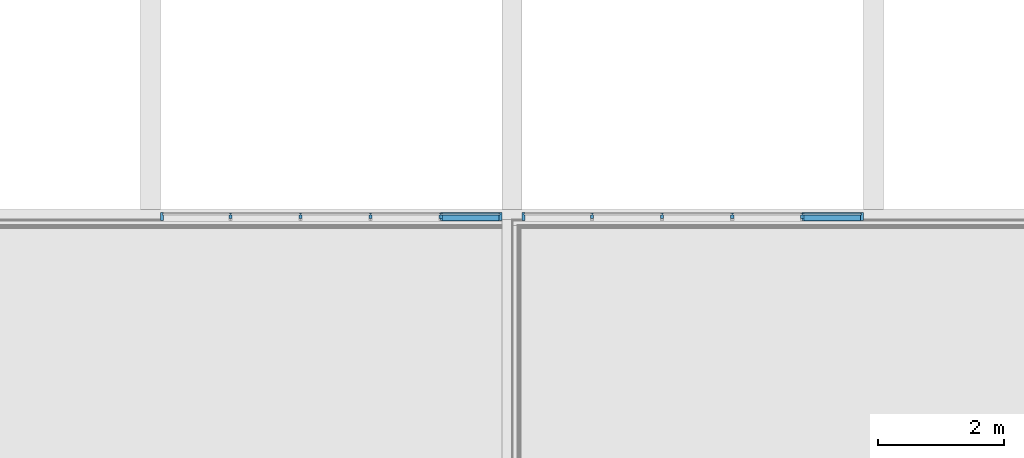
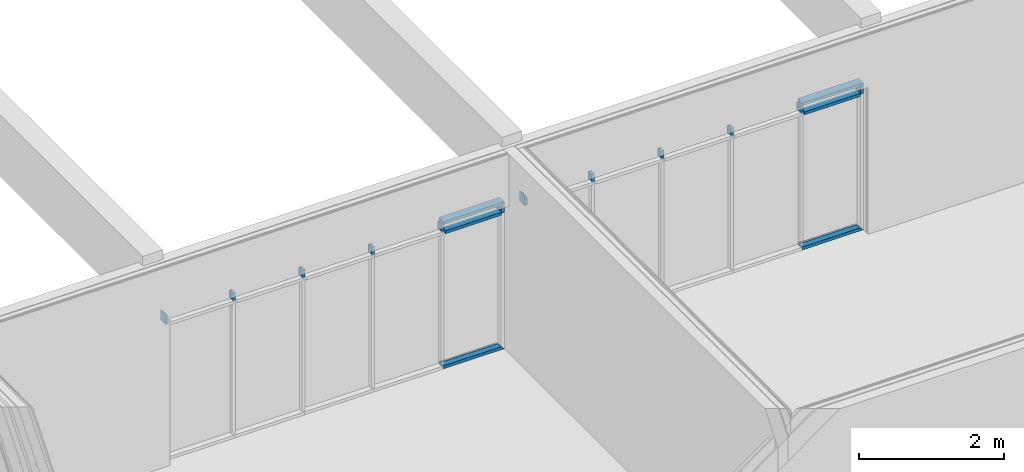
# One storey, part 16 of 139: 18 members, 2 elements without a shape of their own.
"""IFC2X3 building model written with IfcOpenShell, lengths in millimetres."""

import ifcopenshell
import ifcopenshell.guid

model = None  # the IFC model being written
_history = None  # IfcOwnerHistory: only IFC2X3 demands one
_inside = {}  # id of a spatial element -> (the spatial element, [elements in it])
_under = {}  # id of a project, library or spatial element -> (it, [spatial elements below it])
_declared = {}  # id of a project -> (the project, [libraries it declares])
_typed = {}  # id of a type object -> (the type object, [elements of that type])
_made_of = {}  # id of a material, layer set ... -> (it, [elements and type objects made of it])


def new_model(schema):
    """Start an empty IFC model of exactly this schema.

    Asked for "IFC4X3", IfcOpenShell would pick the latest addendum, in which some entities
    have other attributes; the version numbers below select the first issue.
    IFC2X3 requires an IfcOwnerHistory on every rooted entity: one is made here for all.
    """
    global model, _history
    if schema == "IFC4X3":
        model = ifcopenshell.file(schema_version=(4, 3, 0, 0))
    else:
        model = ifcopenshell.file(schema=schema)
    _inside.clear()
    _under.clear()
    _declared.clear()
    _typed.clear()
    _made_of.clear()
    _history = None
    if model.schema == "IFC2X3":
        org = make("IfcOrganization", Name="unknown")
        user = make(
            "IfcPersonAndOrganization",
            ThePerson=make("IfcPerson", FamilyName="unknown"),
            TheOrganization=org,
        )
        app = make(
            "IfcApplication",
            ApplicationDeveloper=org,
            Version="unknown",
            ApplicationFullName="unknown",
            ApplicationIdentifier="unknown",
        )
        _history = make(
            "IfcOwnerHistory",
            OwningUser=user,
            OwningApplication=app,
            ChangeAction="ADDED",
            CreationDate=0,
        )
    return model


def make(cls, **values):
    """One entity of the class cls with the attributes given. An attribute that is None is left unset."""
    return model.create_entity(
        cls, **{name: value for name, value in values.items() if value is not None}
    )


def entity(cls, *values):
    """Any entity or typed value of the class cls, its attributes in the order of the schema. None: left unset."""
    e = model.create_entity(cls)
    for i, value in enumerate(values):
        if value is not None:
            e[i] = value
    return e


def rooted(cls, **values):
    """An entity with a GlobalId (a new one), such as an element, a storey or a relation."""
    return make(cls, GlobalId=ifcopenshell.guid.new(), OwnerHistory=_history, **values)


def si_unit(unit_type, name, prefix=None):
    """IfcSIUnit, for example si_unit("LENGTHUNIT", "METRE", prefix="MILLI")."""
    return make("IfcSIUnit", UnitType=unit_type, Prefix=prefix, Name=name)


def converted_unit(unit_type, name, factor, base, dimensions=None, offset=None):
    """IfcConversionBasedUnit, such as the inch: factor (a typed value) times the base unit."""
    return make(
        "IfcConversionBasedUnit"
        if offset is None
        else "IfcConversionBasedUnitWithOffset",
        ConversionOffset=offset,
        Dimensions=None
        if dimensions is None
        else entity("IfcDimensionalExponents", *dimensions),
        UnitType=unit_type,
        Name=name,
        ConversionFactor=make(
            "IfcMeasureWithUnit", ValueComponent=factor, UnitComponent=base
        ),
    )


def derived_unit(unit_type, elements):
    """IfcDerivedUnit: a product of units, each with its exponent."""
    return make(
        "IfcDerivedUnit",
        Elements=[
            make("IfcDerivedUnitElement", Unit=unit, Exponent=power)
            for unit, power in elements
        ],
        UnitType=unit_type,
    )


def money_unit(currency):
    """IfcMonetaryUnit."""
    return make("IfcMonetaryUnit", Currency=currency)


def assignment(units):
    """IfcUnitAssignment: the units of a project."""
    return None if units is None else make("IfcUnitAssignment", Units=units)


def point(xyz):
    """IfcCartesianPoint."""
    return None if xyz is None else make("IfcCartesianPoint", Coordinates=xyz)


def direction(xyz):
    """IfcDirection."""
    return None if xyz is None else make("IfcDirection", DirectionRatios=xyz)


def frame(location, z_axis=None, x_axis=None):
    """IfcAxis2Placement3D, a coordinate frame: its origin and axes. An axis left out is left unset."""
    return make(
        "IfcAxis2Placement3D",
        Location=point(location),
        Axis=direction(z_axis),
        RefDirection=direction(x_axis),
    )


def origin_with_axes():
    """The frame at (0, 0, 0) with the z axis (0, 0, 1) and the x axis (1, 0, 0) written out."""
    return frame((0.0, 0.0, 0.0), z_axis=(0.0, 0.0, 1.0), x_axis=(1.0, 0.0, 0.0))


def place(relative_to, where):
    """IfcLocalPlacement: puts the frame where relative to a parent placement (None: the world)."""
    return make(
        "IfcLocalPlacement", PlacementRelTo=relative_to, RelativePlacement=where
    )


def context(
    kind, dimensions, precision=None, world=None, true_north=None, identifier=None
):
    """IfcGeometricRepresentationContext, for example the 3D "Model" context."""
    return make(
        "IfcGeometricRepresentationContext",
        ContextIdentifier=identifier,
        ContextType=kind,
        CoordinateSpaceDimension=dimensions,
        Precision=precision,
        WorldCoordinateSystem=world,
        TrueNorth=true_north,
    )


def subcontext(parent, identifier, kind, view, scale=None):
    """IfcGeometricRepresentationSubContext, for example "Body" below "Model"."""
    return make(
        "IfcGeometricRepresentationSubContext",
        ContextIdentifier=identifier,
        ContextType=kind,
        ParentContext=parent,
        TargetScale=scale,
        TargetView=view,
    )


def project(units=None, contexts=None):
    """IfcProject with its units and contexts."""
    return rooted(
        "IfcProject",
        Name="project",
        RepresentationContexts=contexts,
        UnitsInContext=assignment(units),
    )


def spatial(cls, under=None, at=None, **own):
    """A site, building, storey or space (cls), placed at a placement, below another one or the project."""
    s = rooted(cls, ObjectPlacement=at, **own)
    if under is not None:
        _under.setdefault(under.id(), (under, []))[1].append(s)
    return s


def faces_of(points, faces, orient=None, outer=None):
    """IfcFace entities. A face is a list of loops; a loop is a list of indices into points, from 0.

    orient and outer hold one flag for each loop. By default every Orientation is true, the
    first loop of a face is its IfcFaceOuterBound and the others are IfcFaceBound.
    """
    made = []
    for i, loops in enumerate(faces):
        bounds = []
        for j, loop in enumerate(loops):
            is_outer = j == 0 if outer is None else outer[i][j]
            bounds.append(
                make(
                    "IfcFaceOuterBound" if is_outer else "IfcFaceBound",
                    Bound=make("IfcPolyLoop", Polygon=[points[k] for k in loop]),
                    Orientation=True if orient is None else orient[i][j],
                )
            )
        made.append(make("IfcFace", Bounds=bounds))
    return made


def faceted_brep(points, faces, orient=None, outer=None, voids=None):
    """IfcFacetedBrep: a solid bounded by flat faces; with voids (closed shells), ...WithVoids."""
    shared = [point(p) for p in points]
    hull = make("IfcClosedShell", CfsFaces=faces_of(shared, faces, orient, outer))
    if voids is None:
        return make("IfcFacetedBrep", Outer=hull)
    return make(
        "IfcFacetedBrepWithVoids",
        Outer=hull,
        Voids=[
            make(cls, CfsFaces=faces_of(shared, fs, o, b)) for cls, fs, o, b in voids
        ],
    )


def shape(context_of_items, identifier, shape_type, items):
    """IfcShapeRepresentation: the items that make up one representation, for example the "Body"."""
    return make(
        "IfcShapeRepresentation",
        ContextOfItems=context_of_items,
        RepresentationIdentifier=identifier,
        RepresentationType=shape_type,
        Items=items,
    )


def source(mapping_origin, context_of_items, identifier, shape_type, items):
    """IfcRepresentationMap: a shape defined once, which mapped items show again and again."""
    return make(
        "IfcRepresentationMap",
        MappingOrigin=mapping_origin,
        MappedRepresentation=shape(context_of_items, identifier, shape_type, items),
    )


def transform(
    local_origin,
    x_axis=None,
    y_axis=None,
    z_axis=None,
    scale=None,
    scale2=None,
    scale3=None,
    uniform=True,
):
    """IfcCartesianTransformationOperator3D, or its non-uniform kind. x_axis, y_axis, z_axis: its Axis1, 2, 3."""
    if uniform:
        return make(
            "IfcCartesianTransformationOperator3D",
            Axis1=direction(x_axis),
            Axis2=direction(y_axis),
            LocalOrigin=point(local_origin),
            Scale=scale,
            Axis3=direction(z_axis),
        )
    return make(
        "IfcCartesianTransformationOperator3DnonUniform",
        Axis1=direction(x_axis),
        Axis2=direction(y_axis),
        LocalOrigin=point(local_origin),
        Scale=scale,
        Axis3=direction(z_axis),
        Scale2=scale2,
        Scale3=scale3,
    )


def mapped(mapping_source, mapping_target):
    """IfcMappedItem: shows the shape of a source again, moved by a transform."""
    return make(
        "IfcMappedItem", MappingSource=mapping_source, MappingTarget=mapping_target
    )


def material(Name=None, Category=None):
    """IfcMaterial."""
    return make("IfcMaterial", Name=Name, Category=Category)


def made_of(thing, what):
    """Note that an element or type object is made of a material, layer set ...; save() writes the relation."""
    if what is not None:
        _made_of.setdefault(what.id(), (what, []))[1].append(thing)
    return thing


def type_object(cls, material=None, **own):
    """A type object (cls), such as IfcWallType, which elements share."""
    return made_of(rooted(cls, **own), material)


def element(
    cls,
    number,
    at=None,
    inside=None,
    cuts=None,
    type_object=None,
    material=None,
    context=None,
    identifier="Body",
    shape_type=None,
    held_by="IfcProductDefinitionShape",
    body=None,
    shapes=None,
    **own,
):
    """One element of the class cls, such as IfcWall. Its Tag is "e" and its number.

    at: its placement. inside: the storey or other place that contains it. cuts: it is an
    opening in that element (IfcRelVoidsElement). A single representation is given by context,
    identifier, shape_type and body (its items); several are given by shapes. held_by: the class
    of the entity that holds the representations. save() writes the other relations.
    """
    e = rooted(cls, Tag="e%d" % number, ObjectPlacement=at, **own)
    if body is not None:
        shapes = [shape(context, identifier, shape_type, body)]
    if shapes is not None:
        e.Representation = make(held_by, Representations=shapes)
    if inside is not None:
        _inside.setdefault(inside.id(), (inside, []))[1].append(e)
    if cuts is not None:
        rooted(
            "IfcRelVoidsElement", RelatingBuildingElement=cuts, RelatedOpeningElement=e
        )
    if type_object is not None:
        _typed.setdefault(type_object.id(), (type_object, []))[1].append(e)
    return made_of(e, material)


def aggregate(whole, parts):
    """IfcRelAggregates: a whole, such as a stair, and the parts it consists of."""
    return rooted("IfcRelAggregates", RelatingObject=whole, RelatedObjects=parts)


def save(model, path):
    """Write the relations noted so far, then the file.

    IfcRelAggregates (storeys below a building ...), IfcRelContainedInSpatialStructure (elements
    in a storey), IfcRelDefinesByType, IfcRelAssociatesMaterial and IfcRelDeclares: one each for
    every whole, place, type object, material and project.
    """
    for whole, parts in _under.values():
        aggregate(whole, parts)
    for where, things in _inside.values():
        rooted(
            "IfcRelContainedInSpatialStructure",
            RelatedElements=things,
            RelatingStructure=where,
        )
    for kind, things in _typed.values():
        rooted("IfcRelDefinesByType", RelatedObjects=things, RelatingType=kind)
    for what, things in _made_of.values():
        rooted("IfcRelAssociatesMaterial", RelatedObjects=things, RelatingMaterial=what)
    for by, libraries in _declared.values():
        rooted("IfcRelDeclares", RelatingContext=by, RelatedDefinitions=libraries)
    model.write(path)


model = new_model("IFC2X3")

# Units and contexts
model_context = context("Model", 3, precision=0.01, world=origin_with_axes(), true_north=direction((0.0, 1.0)))
body_context = subcontext(model_context, "Body", "Model", "MODEL_VIEW")
ifc_project = project(units=[si_unit("LENGTHUNIT", "METRE", prefix="MILLI"), si_unit("AREAUNIT", "SQUARE_METRE"), si_unit("VOLUMEUNIT", "CUBIC_METRE"), converted_unit("PLANEANGLEUNIT", "DEGREE", entity("IfcPlaneAngleMeasure", 0.0174532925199), si_unit("PLANEANGLEUNIT", "RADIAN"), dimensions=[0, 0, 0, 0, 0, 0, 0]), money_unit("EUR"), converted_unit("TIMEUNIT", "Year", entity("IfcTimeMeasure", 31556926.0), si_unit("TIMEUNIT", "SECOND"), dimensions=[0, 0, 1, 0, 0, 0, 0]), si_unit("MASSUNIT", "GRAM", prefix="KILO"), si_unit("THERMODYNAMICTEMPERATUREUNIT", "DEGREE_CELSIUS"), si_unit("LUMINOUSINTENSITYUNIT", "LUMEN"), si_unit("ENERGYUNIT", "JOULE", prefix="MEGA"), derived_unit("THERMALCONDUCTANCEUNIT", [(si_unit("POWERUNIT", "WATT"), 1), (si_unit("LENGTHUNIT", "METRE"), -1), (si_unit("THERMODYNAMICTEMPERATUREUNIT", "KELVIN"), -1)]), derived_unit("SPECIFICHEATCAPACITYUNIT", [(si_unit("ENERGYUNIT", "JOULE"), 1), (si_unit("MASSUNIT", "GRAM", prefix="KILO"), -1), (si_unit("THERMODYNAMICTEMPERATUREUNIT", "KELVIN"), -1)]), derived_unit("MASSDENSITYUNIT", [(si_unit("MASSUNIT", "GRAM", prefix="KILO"), 1), (si_unit("VOLUMEUNIT", "CUBIC_METRE"), -1)])], contexts=[model_context])

# Site, building, storey
site_placement = place(None, origin_with_axes())
site = spatial("IfcSite", under=ifc_project, at=site_placement, Name="Kolde pst 67a", CompositionType="ELEMENT")
building_placement = place(site_placement, origin_with_axes())
building = spatial("IfcBuilding", under=site, at=building_placement, Name="Riigigümnaasium", CompositionType="ELEMENT")
storey_placement = place(building_placement, frame((0.0, 0.0, 4600.0), z_axis=(0.0, 0.0, 1.0), x_axis=(1.0, 0.0, 0.0)))
storey = spatial("IfcBuildingStorey", under=building, at=storey_placement, Name="2. korrus", CompositionType="ELEMENT", Elevation=4600.0)

# Curtain wall, member
curtain_wall_type = type_object("IfcCurtainWallType", Name="Curtain Wall Type", PredefinedType="NOTDEFINED")
curtain_wall_1_placement = place(storey_placement, frame((16075.0009233, 67175.1339524, -0.000749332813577), z_axis=(0.0, 0.0, 1.0), x_axis=(1.0, 0.0, 0.0)))
curtain_wall_1 = element("IfcCurtainWall", 1, at=curtain_wall_1_placement, inside=storey, type_object=curtain_wall_type, Name="KLAASSEIN")
ifc_material_1 = material(Name="_GENEERILINE MATERJAL")
member_type_1 = type_object("IfcMemberType", Name="Transom Frame 50 x 100", PredefinedType="MEMBER")
shared_shape_1 = source(origin_with_axes(), body_context, "Body", "Brep", [
    faceted_brep([(-25.0, -10.0, 25.0), (-25.0, -110.0, 25.0), (-25.0, -110.0, 919.999966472), (-25.0, -10.0, 919.999966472), (25.0, -10.0, 25.0), (25.0, -110.0, 25.0), (25.0, -110.0, 919.999966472), (25.0, -10.0, 919.999966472)], [[[0, 1, 2, 3]], [[1, 0, 4, 5]], [[1, 5, 6, 2]], [[2, 6, 7, 3]], [[4, 0, 3, 7]], [[5, 4, 7, 6]]]),
])
member_1_placement = place(curtain_wall_1_placement, frame((3884.99999998, -0.0117178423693, 2300.0), z_axis=(0.999999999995, -3.0161756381e-06, 0.0), x_axis=(0.0, 0.0, 1.0)))
member_1 = element("IfcMember", 2, at=member_1_placement, type_object=member_type_1, material=ifc_material_1, Name="RF RAAM HOR-385", ObjectType="MEMBER", context=body_context, shape_type="MappedRepresentation", body=[
    mapped(shared_shape_1, transform((0.0, 0.0, 0.0), x_axis=(-1.0, 0.0, 0.0), y_axis=(0.0, -1.0, 0.0), z_axis=(0.0, 0.0, 1.0))),
])

curtain_wall_2_placement = place(storey_placement, frame((10344.9992917, 67175.1512351, -0.000749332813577), z_axis=(0.0, 0.0, 1.0), x_axis=(1.0, 0.0, 0.0)))
curtain_wall_2 = element("IfcCurtainWall", 3, at=curtain_wall_2_placement, inside=storey, type_object=curtain_wall_type, Name="KLAASSEIN")
member_2_placement = place(curtain_wall_2_placement, frame((3884.99999998, -0.0117178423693, 2300.0), z_axis=(0.999999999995, -3.0161756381e-06, 0.0), x_axis=(0.0, 0.0, 1.0)))
member_2 = element("IfcMember", 4, at=member_2_placement, type_object=member_type_1, material=ifc_material_1, Name="RF RAAM HOR-385", ObjectType="MEMBER", context=body_context, shape_type="MappedRepresentation", body=[
    mapped(shared_shape_1, transform((0.0, 0.0, 0.0), x_axis=(-1.0, 0.0, 0.0), y_axis=(0.0, -1.0, 0.0), z_axis=(0.0, 0.0, 1.0))),
])

# Member
ifc_material_2 = material(Name="_METALL - alumiinium")
member_type_2 = type_object("IfcMemberType", Name="Boundary Frame 50 x 130", PredefinedType="MEMBER")
shared_shape_2 = source(origin_with_axes(), body_context, "Body", "Brep", [
    faceted_brep([(-30.0, -10.0, 939.999966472), (-50.0, -10.0, 919.999966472), (-50.0, -100.0, 919.999966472), (0.0, -100.0, 969.999966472), (0.0, 30.0, 969.999966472), (-50.0, 30.0, 919.999966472), (-50.0, 10.0, 919.999966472), (-30.0, 10.0, 939.999966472), (-30.0, -10.0, 0.0), (-50.0, -10.0, 0.0), (-50.0, -100.0, 0.0), (0.0, -100.0, 0.0), (0.0, 30.0, 0.0), (-50.0, 30.0, 0.0), (-50.0, 10.0, 0.0), (-30.0, 10.0, 0.0)], [[[0, 1, 2, 3, 4, 5, 6, 7]], [[0, 8, 9, 1]], [[9, 10, 2, 1]], [[10, 11, 3, 2]], [[11, 12, 4, 3]], [[12, 13, 5, 4]], [[6, 5, 13, 14]], [[14, 15, 7, 6]], [[7, 15, 8, 0]], [[8, 15, 14, 13, 12, 11, 10, 9]]]),
])
member_3_placement = place(curtain_wall_1_placement, frame((3884.99999998, -0.0117178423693, 0.0), z_axis=(0.999999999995, -3.0161756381e-06, 0.0), x_axis=(0.0, 0.0, 1.0)))
member_3 = element("IfcMember", 5, at=member_3_placement, type_object=member_type_2, material=ifc_material_2, Name="RF RAAM SERV-072", ObjectType="MEMBER", context=body_context, shape_type="MappedRepresentation", body=[
    mapped(shared_shape_2, transform((0.0, 0.0, 0.0), x_axis=(-1.0, 0.0, 0.0), y_axis=(0.0, -1.0, 0.0), z_axis=(0.0, 0.0, 1.0))),
])

member_4_placement = place(curtain_wall_2_placement, frame((3884.99999998, -0.0117178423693, 0.0), z_axis=(0.999999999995, -3.0161756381e-06, 0.0), x_axis=(0.0, 0.0, 1.0)))
member_4 = element("IfcMember", 6, at=member_4_placement, type_object=member_type_2, material=ifc_material_2, Name="RF RAAM SERV-072", ObjectType="MEMBER", context=body_context, shape_type="MappedRepresentation", body=[
    mapped(shared_shape_2, transform((0.0, 0.0, 0.0), x_axis=(-1.0, 0.0, 0.0), y_axis=(0.0, -1.0, 0.0), z_axis=(0.0, 0.0, 1.0))),
])

shared_shape_3 = source(origin_with_axes(), body_context, "Body", "Brep", [
    faceted_brep([(30.0, -10.0, 150.000018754), (30.0, 10.0, 150.000018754), (50.0, 10.0, 130.000018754), (50.0, 30.0, 130.000018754), (0.0, 30.0, 180.000018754), (0.0, -100.0, 180.000018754), (50.0, -100.0, 130.000018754), (50.0, -10.0, 130.000018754), (30.0, -10.0, 0.0), (30.0, 10.0, 0.0), (50.0, 10.0, 0.0), (50.0, 30.0, 0.0), (0.0, 30.0, 0.0), (0.0, -100.0, 0.0), (50.0, -100.0, 0.0), (50.0, -10.0, 0.0)], [[[0, 1, 2, 3, 4, 5, 6, 7]], [[1, 0, 8, 9]], [[10, 2, 1, 9]], [[2, 10, 11, 3]], [[12, 4, 3, 11]], [[13, 5, 4, 12]], [[14, 6, 5, 13]], [[15, 7, 6, 14]], [[0, 7, 15, 8]], [[8, 15, 14, 13, 12, 11, 10, 9]]]),
])
member_5_placement = place(curtain_wall_1_placement, frame((-554.999999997, 0.0016739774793, 2300.0), z_axis=(0.0, 0.0, 1.0), x_axis=(-0.999999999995, 3.01617563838e-06, 0.0)))
member_5 = element("IfcMember", 7, at=member_5_placement, type_object=member_type_2, material=ifc_material_2, Name="RF RAAM SERV-080", ObjectType="MEMBER", context=body_context, shape_type="MappedRepresentation", body=[
    mapped(shared_shape_3, transform((0.0, 0.0, 0.0), x_axis=(-1.0, 0.0, 0.0), y_axis=(0.0, -1.0, 0.0), z_axis=(0.0, 0.0, 1.0))),
])

member_6_placement = place(curtain_wall_2_placement, frame((-554.999999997, 0.0016739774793, 2300.0), z_axis=(0.0, 0.0, 1.0), x_axis=(-0.999999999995, 3.01617563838e-06, 0.0)))
member_6 = element("IfcMember", 8, at=member_6_placement, type_object=member_type_2, material=ifc_material_2, Name="RF RAAM SERV-080", ObjectType="MEMBER", context=body_context, shape_type="MappedRepresentation", body=[
    mapped(shared_shape_3, transform((0.0, 0.0, 0.0), x_axis=(-1.0, 0.0, 0.0), y_axis=(0.0, -1.0, 0.0), z_axis=(0.0, 0.0, 1.0))),
])

member_type_3 = type_object("IfcMemberType", Name="Mullion Frame 50 x 90", PredefinedType="MEMBER")
shared_shape_4 = source(origin_with_axes(), body_context, "Body", "Brep", [
    faceted_brep([(5.0, -10.0, 130.000018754), (5.0, 10.0, 130.000018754), (25.0, 10.0, 130.000018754), (25.0, 20.0, 130.000018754), (-25.0, 20.0, 130.000018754), (-25.0, 10.0, 130.000018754), (-5.0, 10.0, 130.000018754), (-5.0, -10.0, 130.000018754), (-25.0, -10.0, 130.000018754), (-25.0, -70.0, 130.000018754), (25.0, -70.0, 130.000018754), (25.0, -10.0, 130.000018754), (5.0, -10.0, 0.0), (5.0, 10.0, 0.0), (25.0, 10.0, 0.0), (25.0, 20.0, 0.0), (-25.0, 20.0, 0.0), (-25.0, 10.0, 0.0), (-5.0, 10.0, 0.0), (-5.0, -10.0, 0.0), (-25.0, -10.0, 0.0), (-25.0, -70.0, 0.0), (25.0, -70.0, 0.0), (25.0, -10.0, 0.0)], [[[0, 1, 2, 3, 4, 5, 6, 7, 8, 9, 10, 11]], [[0, 12, 13, 1]], [[1, 13, 14, 2]], [[14, 15, 3, 2]], [[3, 15, 16, 4]], [[17, 5, 4, 16]], [[5, 17, 18, 6]], [[7, 6, 18, 19]], [[8, 7, 19, 20]], [[8, 20, 21, 9]], [[9, 21, 22, 10]], [[11, 10, 22, 23]], [[11, 23, 12, 0]], [[13, 12, 23, 22, 21, 20, 19, 18, 17, 16, 15, 14]]]),
])
member_7_placement = place(curtain_wall_1_placement, frame((554.999999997, -0.0016739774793, 2300.0), z_axis=(0.0, 0.0, 1.0), x_axis=(-0.999999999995, 3.01617563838e-06, 0.0)))
member_7 = element("IfcMember", 9, at=member_7_placement, type_object=member_type_3, material=ifc_material_2, Name="RF RAAM VERT-333", ObjectType="MEMBER", context=body_context, shape_type="MappedRepresentation", body=[
    mapped(shared_shape_4, transform((0.0, 0.0, 0.0), x_axis=(-1.0, 0.0, 0.0), y_axis=(0.0, -1.0, 0.0), z_axis=(0.0, 0.0, 1.0))),
])

member_8_placement = place(curtain_wall_1_placement, frame((1664.99999999, -0.0050219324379, 2300.0), z_axis=(0.0, 0.0, 1.0), x_axis=(-0.999999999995, 3.01617564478e-06, 0.0)))
member_8 = element("IfcMember", 10, at=member_8_placement, type_object=member_type_3, material=ifc_material_2, Name="RF RAAM VERT-334", ObjectType="MEMBER", context=body_context, shape_type="MappedRepresentation", body=[
    mapped(shared_shape_4, transform((0.0, 0.0, 0.0), x_axis=(-1.0, 0.0, 0.0), y_axis=(0.0, -1.0, 0.0), z_axis=(0.0, 0.0, 1.0))),
])

member_9_placement = place(curtain_wall_1_placement, frame((2774.99999999, -0.00836988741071, 2300.0), z_axis=(0.0, 0.0, 1.0), x_axis=(-0.999999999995, 3.01617564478e-06, 0.0)))
member_9 = element("IfcMember", 11, at=member_9_placement, type_object=member_type_3, material=ifc_material_2, Name="RF RAAM VERT-335", ObjectType="MEMBER", context=body_context, shape_type="MappedRepresentation", body=[
    mapped(shared_shape_4, transform((0.0, 0.0, 0.0), x_axis=(-1.0, 0.0, 0.0), y_axis=(0.0, -1.0, 0.0), z_axis=(0.0, 0.0, 1.0))),
])

member_10_placement = place(curtain_wall_1_placement, frame((3884.99999998, -0.0117178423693, 2300.0), z_axis=(0.0, 0.0, 1.0), x_axis=(-0.999999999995, 3.01617563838e-06, 0.0)))
member_10 = element("IfcMember", 12, at=member_10_placement, type_object=member_type_3, material=ifc_material_2, Name="RF RAAM VERT-336", ObjectType="MEMBER", context=body_context, shape_type="MappedRepresentation", body=[
    mapped(shared_shape_4, transform((0.0, 0.0, 0.0), x_axis=(-1.0, 0.0, 0.0), y_axis=(0.0, -1.0, 0.0), z_axis=(0.0, 0.0, 1.0))),
])

member_11_placement = place(curtain_wall_2_placement, frame((2774.99999999, -0.00836988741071, 2300.0), z_axis=(0.0, 0.0, 1.0), x_axis=(-0.999999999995, 3.01617564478e-06, 0.0)))
member_11 = element("IfcMember", 13, at=member_11_placement, type_object=member_type_3, material=ifc_material_2, Name="RF RAAM VERT-335", ObjectType="MEMBER", context=body_context, shape_type="MappedRepresentation", body=[
    mapped(shared_shape_4, transform((0.0, 0.0, 0.0), x_axis=(-1.0, 0.0, 0.0), y_axis=(0.0, -1.0, 0.0), z_axis=(0.0, 0.0, 1.0))),
])

member_12_placement = place(curtain_wall_2_placement, frame((3884.99999998, -0.0117178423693, 2300.0), z_axis=(0.0, 0.0, 1.0), x_axis=(-0.999999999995, 3.01617563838e-06, 0.0)))
member_12 = element("IfcMember", 14, at=member_12_placement, type_object=member_type_3, material=ifc_material_2, Name="RF RAAM VERT-336", ObjectType="MEMBER", context=body_context, shape_type="MappedRepresentation", body=[
    mapped(shared_shape_4, transform((0.0, 0.0, 0.0), x_axis=(-1.0, 0.0, 0.0), y_axis=(0.0, -1.0, 0.0), z_axis=(0.0, 0.0, 1.0))),
])

member_13_placement = place(curtain_wall_2_placement, frame((554.999999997, -0.0016739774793, 2300.0), z_axis=(0.0, 0.0, 1.0), x_axis=(-0.999999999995, 3.01617563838e-06, 0.0)))
member_13 = element("IfcMember", 15, at=member_13_placement, type_object=member_type_3, material=ifc_material_2, Name="RF RAAM VERT-333", ObjectType="MEMBER", context=body_context, shape_type="MappedRepresentation", body=[
    mapped(shared_shape_4, transform((0.0, 0.0, 0.0), x_axis=(-1.0, 0.0, 0.0), y_axis=(0.0, -1.0, 0.0), z_axis=(0.0, 0.0, 1.0))),
])

member_14_placement = place(curtain_wall_2_placement, frame((1664.99999999, -0.0050219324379, 2300.0), z_axis=(0.0, 0.0, 1.0), x_axis=(-0.999999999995, 3.01617564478e-06, 0.0)))
member_14 = element("IfcMember", 16, at=member_14_placement, type_object=member_type_3, material=ifc_material_2, Name="RF RAAM VERT-334", ObjectType="MEMBER", context=body_context, shape_type="MappedRepresentation", body=[
    mapped(shared_shape_4, transform((0.0, 0.0, 0.0), x_axis=(-1.0, 0.0, 0.0), y_axis=(0.0, -1.0, 0.0), z_axis=(0.0, 0.0, 1.0))),
])

shared_shape_5 = source(origin_with_axes(), body_context, "Body", "Brep", [
    faceted_brep([(-30.0, -10.0, 969.99996668), (-50.0, -10.0, 969.99996668), (-50.0, -100.0, 969.99996668), (0.0, -100.0, 969.99996668), (0.0, 30.0, 969.99996668), (-50.0, 30.0, 969.99996668), (-50.0, 10.0, 969.99996668), (-30.0, 10.0, 969.99996668), (-30.0, -10.0, 30.0000002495), (-50.0, -10.0, 50.0000004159), (-50.0, -100.0, 50.0000004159), (0.0, -100.0, 0.0), (0.0, 30.0, 0.0), (-50.0, 30.0, 50.0000004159), (-50.0, 10.0, 50.0000004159), (-30.0, 10.0, 30.0000002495)], [[[0, 1, 2, 3, 4, 5, 6, 7]], [[0, 8, 9, 1]], [[9, 10, 2, 1]], [[2, 10, 11, 3]], [[3, 11, 12, 4]], [[4, 12, 13, 5]], [[6, 5, 13, 14]], [[14, 15, 7, 6]], [[7, 15, 8, 0]], [[8, 15, 14, 13, 12, 11, 10, 9]]]),
])
member_15_placement = place(curtain_wall_1_placement, frame((4854.99996645, -0.0146435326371, 2480.00002682), z_axis=(-0.999999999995, 3.0161756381e-06, -8.3173649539e-09), x_axis=(8.31736495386e-09, 0.0, -1.0)))
member_15 = element("IfcMember", 17, at=member_15_placement, type_object=member_type_2, material=ifc_material_2, Name="RF RAAM SERV-075", ObjectType="MEMBER", context=body_context, shape_type="MappedRepresentation", body=[
    mapped(shared_shape_5, transform((0.0, 0.0, 0.0), x_axis=(-1.0, 0.0, -8.3173649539e-09), y_axis=(0.0, -1.0, 0.0), z_axis=(-8.3173649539e-09, 0.0, 1.0))),
])

member_16_placement = place(curtain_wall_2_placement, frame((4854.99996645, -0.0146435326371, 2480.00002682), z_axis=(-0.999999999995, 3.0161756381e-06, -8.3173649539e-09), x_axis=(8.31736495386e-09, 0.0, -1.0)))
member_16 = element("IfcMember", 18, at=member_16_placement, type_object=member_type_2, material=ifc_material_2, Name="RF RAAM SERV-075", ObjectType="MEMBER", context=body_context, shape_type="MappedRepresentation", body=[
    mapped(shared_shape_5, transform((0.0, 0.0, 0.0), x_axis=(-1.0, 0.0, -8.3173649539e-09), y_axis=(0.0, -1.0, 0.0), z_axis=(-8.3173649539e-09, 0.0, 1.0))),
])

shared_shape_6 = source(origin_with_axes(), body_context, "Body", "Brep", [
    faceted_brep([(-30.0, -10.0, 150.000026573), (-50.0, -10.0, 130.000026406), (-50.0, -100.0, 130.000026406), (0.0, -100.0, 180.000026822), (0.0, 30.0, 180.000026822), (-50.0, 30.0, 130.000026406), (-50.0, 10.0, 130.000026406), (-30.0, 10.0, 150.000026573), (-30.0, -10.0, 0.0), (-50.0, -10.0, 0.0), (-50.0, -100.0, 0.0), (0.0, -100.0, 0.0), (0.0, 30.0, 0.0), (-50.0, 30.0, 0.0), (-50.0, 10.0, 0.0), (-30.0, 10.0, 0.0)], [[[0, 1, 2, 3, 4, 5, 6, 7]], [[0, 8, 9, 1]], [[9, 10, 2, 1]], [[10, 11, 3, 2]], [[11, 12, 4, 3]], [[12, 13, 5, 4]], [[6, 5, 13, 14]], [[14, 15, 7, 6]], [[7, 15, 8, 0]], [[8, 15, 14, 13, 12, 11, 10, 9]]]),
])
member_17_placement = place(curtain_wall_1_placement, frame((4854.99996645, -0.0146435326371, 2300.0), z_axis=(0.0, 0.0, 1.0), x_axis=(-0.999999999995, 3.01617563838e-06, 0.0)))
member_17 = element("IfcMember", 19, at=member_17_placement, type_object=member_type_2, material=ifc_material_2, Name="RF RAAM SERV-074", ObjectType="MEMBER", context=body_context, shape_type="MappedRepresentation", body=[
    mapped(shared_shape_6, transform((0.0, 0.0, 0.0), x_axis=(-1.0, 0.0, 0.0), y_axis=(0.0, -1.0, 0.0), z_axis=(0.0, 0.0, 1.0))),
])

aggregate(curtain_wall_1, [member_1, member_3, member_5, member_7, member_8, member_9, member_10, member_15, member_17])

member_18_placement = place(curtain_wall_2_placement, frame((4854.99996645, -0.0146435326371, 2300.0), z_axis=(0.0, 0.0, 1.0), x_axis=(-0.999999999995, 3.01617563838e-06, 0.0)))
member_18 = element("IfcMember", 20, at=member_18_placement, type_object=member_type_2, material=ifc_material_2, Name="RF RAAM SERV-074", ObjectType="MEMBER", context=body_context, shape_type="MappedRepresentation", body=[
    mapped(shared_shape_6, transform((0.0, 0.0, 0.0), x_axis=(-1.0, 0.0, 0.0), y_axis=(0.0, -1.0, 0.0), z_axis=(0.0, 0.0, 1.0))),
])

aggregate(curtain_wall_2, [member_2, member_4, member_11, member_12, member_16, member_6, member_13, member_18, member_14])

save(model, "model.ifc")
